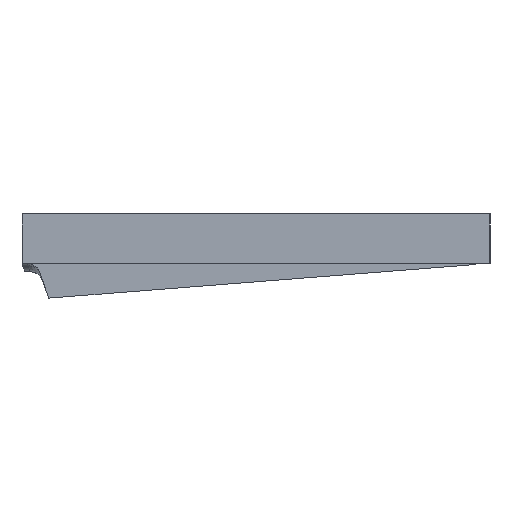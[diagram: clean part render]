
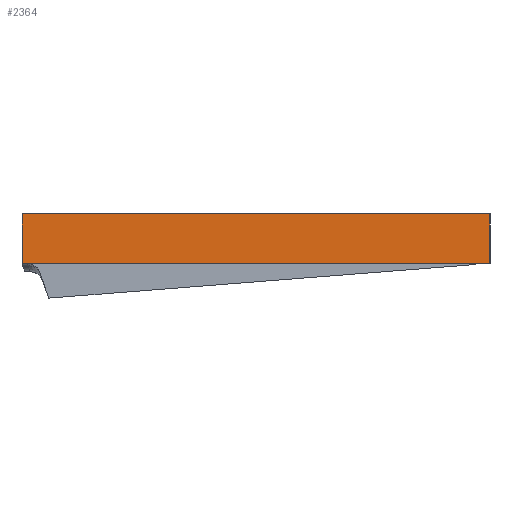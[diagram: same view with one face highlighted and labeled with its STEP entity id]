
A CAD part, left-side view. The second image highlights one B-rep face of the part: STEP entity #2364.
In plain terms, the highlighted planar face has unit normal (-1, 0, 0).
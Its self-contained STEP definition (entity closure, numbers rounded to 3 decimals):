
#120=CARTESIAN_POINT('',(413.5,-13.5,0.));
#121=VERTEX_POINT('',#120);
#128=CARTESIAN_POINT('',(413.5,-13.5,15.6));
#129=VERTEX_POINT('',#128);
#130=CARTESIAN_POINT('',(413.5,-13.5,15.6));
#131=DIRECTION('',(0.,0.,-1.));
#132=VECTOR('',#131,15.6);
#133=LINE('',#130,#132);
#134=EDGE_CURVE('',#129,#121,#133,.T.);
#321=CARTESIAN_POINT('',(413.5,-161.,0.));
#322=VERTEX_POINT('',#321);
#329=CARTESIAN_POINT('',(413.5,-161.,0.));
#330=DIRECTION('',(-0.,1.,0.));
#331=VECTOR('',#330,147.5);
#332=LINE('',#329,#331);
#333=EDGE_CURVE('',#322,#121,#332,.T.);
#2341=CARTESIAN_POINT('',(413.5,-87.25,15.6));
#2342=DIRECTION('',(-1.,-0.,0.));
#2343=DIRECTION('',(0.,-1.,0.));
#2344=AXIS2_PLACEMENT_3D('',#2341,#2342,#2343);
#2345=PLANE('',#2344);
#2346=ORIENTED_EDGE('',*,*,#333,.F.);
#2347=CARTESIAN_POINT('',(413.5,-161.,15.6));
#2348=VERTEX_POINT('',#2347);
#2349=CARTESIAN_POINT('',(413.5,-161.,15.6));
#2350=DIRECTION('',(0.,0.,-1.));
#2351=VECTOR('',#2350,15.6);
#2352=LINE('',#2349,#2351);
#2353=EDGE_CURVE('',#2348,#322,#2352,.T.);
#2354=ORIENTED_EDGE('',*,*,#2353,.F.);
#2355=CARTESIAN_POINT('',(413.5,-161.,15.6));
#2356=DIRECTION('',(-0.,1.,0.));
#2357=VECTOR('',#2356,147.5);
#2358=LINE('',#2355,#2357);
#2359=EDGE_CURVE('',#2348,#129,#2358,.T.);
#2360=ORIENTED_EDGE('',*,*,#2359,.T.);
#2361=ORIENTED_EDGE('',*,*,#134,.T.);
#2362=EDGE_LOOP('',(#2346,#2354,#2360,#2361));
#2363=FACE_BOUND('',#2362,.T.);
#2364=ADVANCED_FACE('',(#2363),#2345,.T.);
